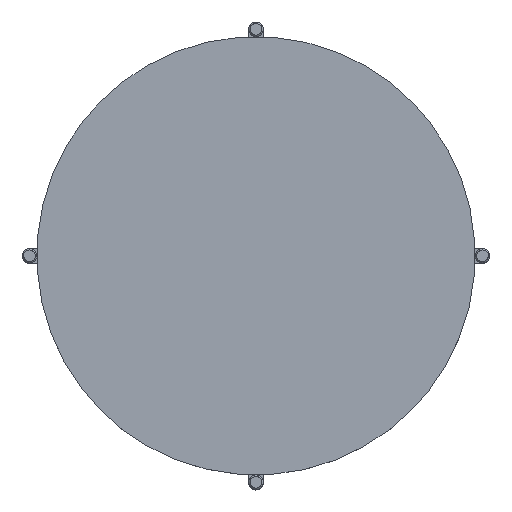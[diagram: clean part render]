
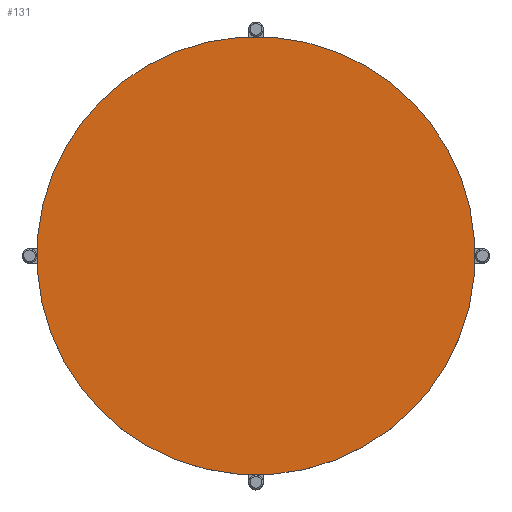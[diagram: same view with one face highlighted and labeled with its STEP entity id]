
A CAD part, top view. The second image highlights one B-rep face of the part: STEP entity #131.
In plain terms, the highlighted planar face has unit normal (0, 0, 1).
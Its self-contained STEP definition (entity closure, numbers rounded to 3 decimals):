
#131=ADVANCED_FACE('',(#179),#673,.T.);
#179=FACE_OUTER_BOUND('',#227,.T.);
#227=EDGE_LOOP('',(#394,#395));
#394=ORIENTED_EDGE('',*,*,#486,.F.);
#395=ORIENTED_EDGE('',*,*,#482,.F.);
#482=EDGE_CURVE('',#623,#625,#524,.T.);
#486=EDGE_CURVE('',#625,#623,#528,.T.);
#524=(
BOUNDED_CURVE()
B_SPLINE_CURVE(2,(#1338,#1339,#1340,#1341,#1342),.UNSPECIFIED.,.F.,.F.)
B_SPLINE_CURVE_WITH_KNOTS((3,2,3),(-188.496,-141.372,
-94.248),.UNSPECIFIED.)
CURVE()
GEOMETRIC_REPRESENTATION_ITEM()
RATIONAL_B_SPLINE_CURVE((1.,0.707,1.,0.707,1.))
REPRESENTATION_ITEM('')
);
#528=(
BOUNDED_CURVE()
B_SPLINE_CURVE(2,(#1352,#1353,#1354,#1355,#1356),.UNSPECIFIED.,.F.,.F.)
B_SPLINE_CURVE_WITH_KNOTS((3,2,3),(-94.248,-47.124,
0.),.UNSPECIFIED.)
CURVE()
GEOMETRIC_REPRESENTATION_ITEM()
RATIONAL_B_SPLINE_CURVE((1.,0.707,1.,0.707,1.))
REPRESENTATION_ITEM('')
);
#623=VERTEX_POINT('',#1334);
#625=VERTEX_POINT('',#1336);
#673=PLANE('',#715);
#715=AXIS2_PLACEMENT_3D('',#1322,#741,$);
#741=DIRECTION('',(0.,0.,1.));
#1322=CARTESIAN_POINT('',(2779.879,530.33,68.2));
#1334=CARTESIAN_POINT('',(2567.747,212.132,68.2));
#1336=CARTESIAN_POINT('',(2992.011,-212.132,68.2));
#1338=CARTESIAN_POINT('',(2567.747,212.132,68.2));
#1339=CARTESIAN_POINT('',(2779.879,424.264,68.2));
#1340=CARTESIAN_POINT('',(2992.011,212.132,68.2));
#1341=CARTESIAN_POINT('',(3204.143,0.,68.2));
#1342=CARTESIAN_POINT('',(2992.011,-212.132,68.2));
#1352=CARTESIAN_POINT('',(2992.011,-212.132,68.2));
#1353=CARTESIAN_POINT('',(2779.879,-424.264,68.2));
#1354=CARTESIAN_POINT('',(2567.747,-212.132,68.2));
#1355=CARTESIAN_POINT('',(2355.614,0.,68.2));
#1356=CARTESIAN_POINT('',(2567.747,212.132,68.2));
